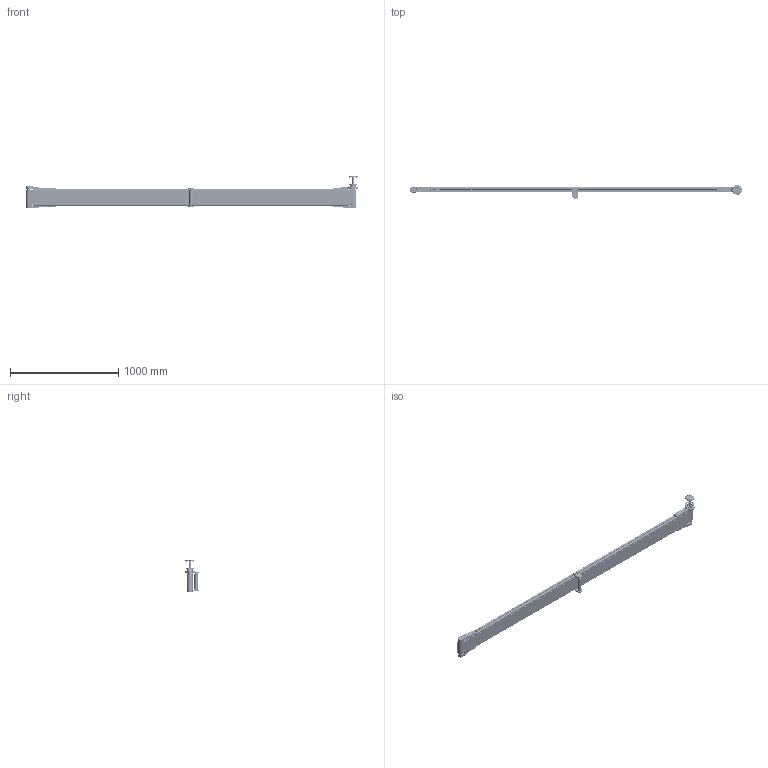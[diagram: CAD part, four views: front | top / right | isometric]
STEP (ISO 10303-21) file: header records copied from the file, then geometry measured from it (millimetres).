
FILE_DESCRIPTION (( 'STEP AP203' ), '1' );
FILE_NAME ('NASTRO_RETTILINEO_TAPPETO.step', '2026-06-03T07:57:26', ( 'Utente Windows' ), ( '' ), 'SwSTEP 2.0', 'SolidWorks 2024', '' );
FILE_SCHEMA (( 'CONFIG_CONTROL_DESIGN' ));
Length unit declared in the file: millimetre
Products named in the file (48): 084.802.013-2; BLOCCO_PERNO_50_44; 084.802.060_Default<A macchina>; VITI TCEI UNI 5931_M6x12 UNI 5931; TELAIO_50_STANDARD_Default<A macchina>; 084.302.000 DADI ALUSIC 13x13-1_084.302.007; 084.802.062; 084.802.034_084.802.034; BLOCCO_BRACCIO_CH04P_V2_VF44P V2; CHIAVETTE_A 6x6x60 UNI 6604-69; 084.807.001_084.807.001; NASTRO_RETTILINEO_TAPPETO; BLOCCO_REGGITAPPETO; 084.811.002; RULLO_REGGITAPPETO; 084.807.002_084.807.002; VITI TE UNI 5739_M6x12 UNI 5739; VITI TSEI UNI 5933 INOX_0412UNI5933A2; BLOCCO_TRAINO_50_STANDARD_44_DX; 084.302.000 DADI ALUSIC 13x13_084.302.004; 084.802.071; VITI TSEI UNI 5933_M4x10 UNI 5933; CHIAVETTE_A 5x5x20 UNI 6604-69; VITI TSEI UNI 5933_M5x12 UNI 5933; 084.802.014; 084.810.001; 084.802.008; 084.302.000 DADI ALUSIC 13x13-1_084.302.004; 084.303.001; RONDELLE FASCIA LARGA UNI 6593_6.4x24 UNI 6593; VITI TCEI UNI 5931_M4x25 UNI 5931; VITI TE UNI 5739_M6x16 UNI 5739; 084.301.000 VITI ALUSIC_084.301.003; 084.803.018; BLOCCO_TRAINO_50_STANDARD; 084.811.004; 084.802.017_084.802.017; BLOCCO_PERNO_50_RINVIO; 084.802.028; RULLO_50_Default<A macchina>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
Assembly tree (108 placements, depth 4):
  NASTRO_RETTILINEO_TAPPETO
    TAPPETO_STANDARD
    TELAIO_50_STANDARD_Default<A macchina>
    LAMIERA_STANDARD  x2
    RULLO_50_Default<A macchina>  x2
    BLOCCO_PERNO_50_44
      084.810.001
      084.811.002
      RONDELLE FASCIA LARGA UNI 6593_6.4x24 UNI 6593
      VITI TE UNI 5739_M6x12 UNI 5739
      CHIAVETTE_A 5x5x20 UNI 6604-69
      CHIAVETTE_A 6x6x60 UNI 6604-69
    BLOCCO_TRAINO_50_STANDARD_44_DX
      084.807.001_084.807.001
      084.802.034_084.802.034
      084.301.000 VITI ALUSIC_084.301.003  x2
      084.302.000 DADI ALUSIC 13x13-1_084.302.004  x2
      BLOCCO_BRACCIO_CH04P_V2_VF44P V2
        084.808.012
        084.802.062
        0820ISO2342
        084.803.018
        VITI TCEI UNI 5931_M6x12 UNI 5931  x4
        VITI TE UNI 5739_M6x16 UNI 5739  x4
        084.802.060_Default<A macchina>
      084.802.065_Default<A macchina>
      VITI TCEI UNI 5931_M4x25 UNI 5931  x2
    BLOCCO_PERNO_50_RINVIO  x3
      084.811.004
      084.810.001
    BLOCCO_TRAINO_50_STANDARD
      084.807.002_084.807.002
      084.802.017_084.802.017
      084.301.000 VITI ALUSIC_084.301.003  x2
      084.302.000 DADI ALUSIC 13x13-1_084.302.004  x2
      084.802.071
      VITI TSEI UNI 5933 INOX_0412UNI5933A2  x2
    BLOCCO_RINVIO_50_STANDARD  x2
      084.807.002_084.807.002
      084.802.017_084.802.017
      084.802.008
      084.301.000 VITI ALUSIC_084.301.003
      084.302.000 DADI ALUSIC 13x13_084.302.004
      VITI TSEI UNI 5933_M4x10 UNI 5933
      084.802.071
    VITE_RONDELLA_M8X20  x11
      084.303.001
      084.301.000 VITI ALUSIC_084.301.003
    VITE_DADO_M5X12  x16
      084.302.000 DADI ALUSIC 13x13-1_084.302.007
      VITI TSEI UNI 5933_M5x12 UNI 5933
    BLOCCO_REGGITAPPETO  x2
      084.301.000 VITI ALUSIC_084.301.003
      084.302.000 DADI ALUSIC 13x13-1_084.302.004
      084.802.017_084.802.017
      084.802.028
      084.802.014
      084.802.013-2
    RULLO_REGGITAPPETO
Bounding box: 3072 x 129 x 304.5 mm (x, y, z)
Volume: 6830614.5 mm3; surface area: 6580158.8 mm2
Topology: 181 solids, 186 shells, 8027 faces, 20931 edges, 13444 vertices
Faces by surface type: plane 3996, cylinder 2361, cone 646, bspline 523, torus 449, sphere 52
Entity records: 167124 total; most frequent: CARTESIAN_POINT 48855, ORIENTED_EDGE 24512, DIRECTION 22026, EDGE_CURVE 12256, VERTEX_POINT 7928, AXIS2_PLACEMENT_3D 7484, VECTOR 7058, LINE 7058
